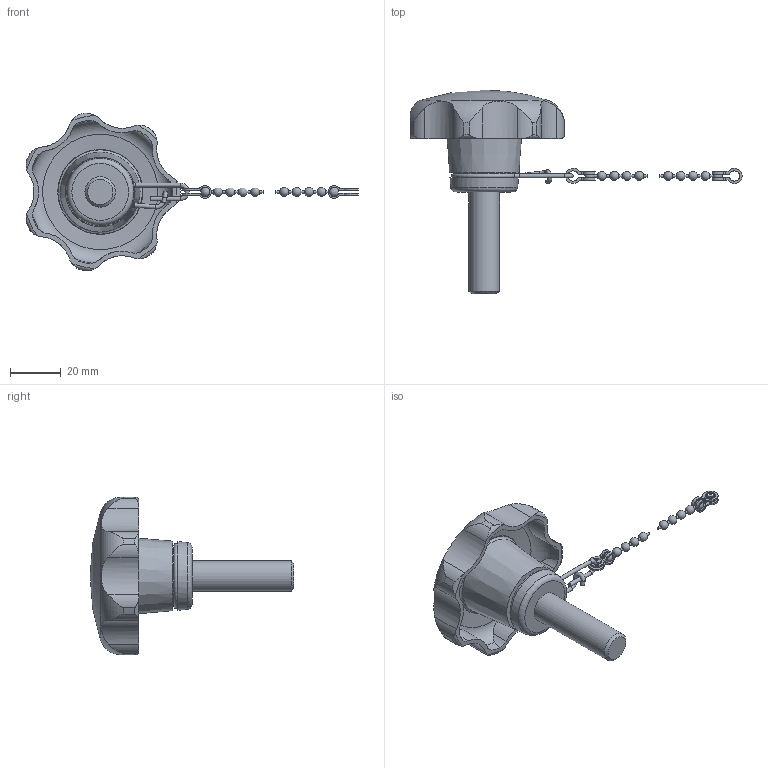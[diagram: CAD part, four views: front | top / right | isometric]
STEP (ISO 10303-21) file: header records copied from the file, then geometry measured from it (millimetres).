
FILE_DESCRIPTION( ( 'STEP AP203' ), '1' );
FILE_NAME( 'C:/Temp/Ganter_Step_05_03_2020/data/2_2/gn_6336_13/gn_6336_13_2/Star knob GN 6336.13-63-M12-40-K.stp', '2020-03-05T12:12:38', ( 'License CC BY-ND 4.0' ), ( 'CADENAS' ), ' ', 'PARTsolutions', ' ' );
FILE_SCHEMA( ( 'CONFIG_CONTROL_DESIGN' ) );
Length unit declared in the file: millimetre
Products named in the file (3): Star knob GN 6336.13-63-M12-40-K; _Star knob GN 6336.13-63-M12-40-K 6; _Star knob GN 111.5-200-14 k2
Assembly tree (2 placements, depth 2):
  Star knob GN 6336.13-63-M12-40-K
    _Star knob GN 6336.13-63-M12-40-K 6
    _Star knob GN 111.5-200-14 k2
Bounding box: 130.4 x 80 x 61.94 mm (x, y, z)
Volume: 45804.2 mm3; surface area: 14991.6 mm2
Topology: 2 solids, 2 shells, 170 faces, 485 edges, 313 vertices
Faces by surface type: cylinder 101, plane 29, torus 18, sphere 11, cone 11
Full cylindrical faces by diameter (mm): 0.9 x10, 1.6 x6, 12 x1, 22.3 x1
Entity records: 6346 total; most frequent: CARTESIAN_POINT 2071, DIRECTION 888, ORIENTED_EDGE 840, EDGE_CURVE 420, AXIS2_PLACEMENT_3D 381, VERTEX_POINT 300, EDGE_LOOP 221, CIRCLE 208
